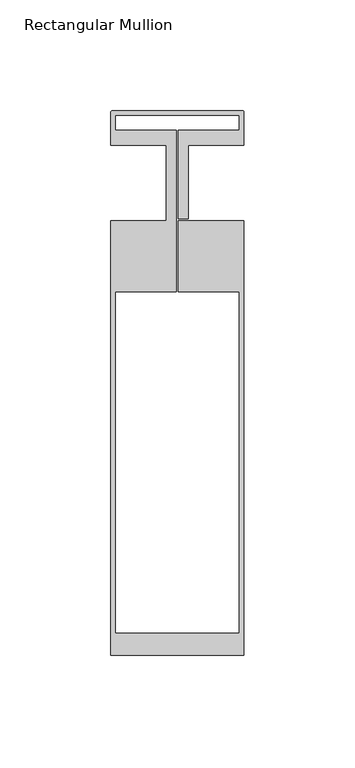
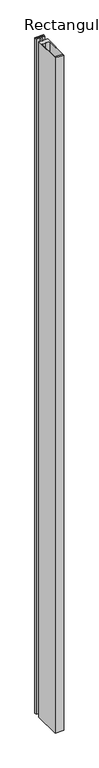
"""IFC4 building model written with IfcOpenShell, lengths in millimetres: member geometry, Rectangular Mullion : FMO60-200-S...FM60-11."""

from ifc_helpers import new_model, si_unit, point, frame, frame_2d, origin, place, context, project, spatial, polyline, circle_curve, trimmed, segment, composite_curve, outline, extrude, source, transform, mapped, element, save


def rectangular_mullion_bac8aaa5(model_context):
    return source(origin(), model_context, "Body", "SweptSolid", [
        extrude(outline(composite_curve([segment(polyline([(-29.5, 32.5117899), (29.5, 32.5117899)]), True, "CONTINUOUS"), segment(trimmed(circle_curve(frame_2d((29.5, 32.0117899)), 0.5), [point((29.5, 32.5117899))], [point((30.0, 32.0117899))], False, "CARTESIAN"), True, "CONTINUOUS"), segment(polyline([(30.0, 32.0117899), (30.0, 17.0), (5.0, 17.0), (5.0, -16.2), (0.5, -16.2), (0.5, 23.8476589), (28.0000412, 23.8476589), (28.0000412, 30.5117899), (-28.0000412, 30.5117899), (-28.0000412, 23.8476589), (-0.5, 23.8476589), (-0.5, -49.0034642), (-28.0, -49.0034642), (-28.0, -203.009342), (28.0, -203.009342), (28.0, -49.0034642), (0.5, -49.0034642), (0.5, -17.0), (30.0, -17.0), (30.0, -213.009342), (-30.0, -213.009342), (-30.0, -17.0), (-5.0, -17.0), (-5.0, 17.0), (-30.0, 17.0), (-30.0, 32.0117899)]), True, "CONTINUOUS"), segment(trimmed(circle_curve(frame_2d((-29.5, 32.0117899)), 0.5), [point((-30.0, 32.0117899))], [point((-29.5, 32.5117899))], False, "CARTESIAN"), True, "CONTINUOUS")], self_intersect=False)), frame((0.0, 0.0, -5000.0), z_axis=(0.0, 0.0, 1.0), x_axis=(1.0, 0.0, 0.0)), (0.0, 0.0, 1.0), 5000.0),
    ])


if __name__ == "__main__":
    model = new_model("IFC4")
    model_context = context("Model", 3, world=origin())
    ifc_project = project(units=[si_unit("LENGTHUNIT", "METRE", prefix="MILLI")], contexts=[model_context])
    site = spatial("IfcSite", under=ifc_project)
    building = spatial("IfcBuilding", under=site)
    placement = place(None, origin())
    rectangular_mullion_shape = rectangular_mullion_bac8aaa5(model_context)
    element("IfcMember", 1, ObjectType="Rectangular Mullion : FMO60-200-S...FM60-11", at=placement, inside=building, context=model_context, shape_type="MappedRepresentation", body=[
        mapped(rectangular_mullion_shape, transform((0.0, 0.0, 0.0), x_axis=(1.0, 0.0, 0.0), y_axis=(0.0, 1.0, 0.0), z_axis=(0.0, 0.0, 1.0))),
    ])
    save(model, "model.ifc")
